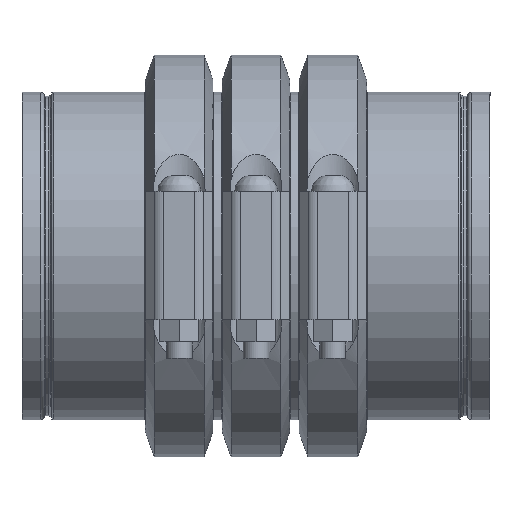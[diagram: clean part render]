
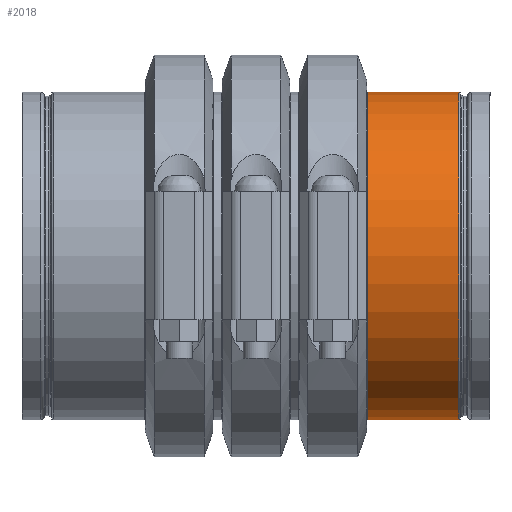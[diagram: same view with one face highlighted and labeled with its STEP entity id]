
A CAD part, top view. The second image highlights one B-rep face of the part: STEP entity #2018.
In plain terms, the highlighted cylindrical face has radius 161.925 mm (diameter 323.85 mm), a full revolution.
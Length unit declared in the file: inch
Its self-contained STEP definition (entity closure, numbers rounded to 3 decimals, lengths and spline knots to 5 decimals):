
#82=LINE('',#3299,#177);
#177=VECTOR('',#2644,6.375);
#272=CYLINDRICAL_SURFACE('',#2276,6.375);
#394=FACE_OUTER_BOUND('',#506,.T.);
#506=EDGE_LOOP('',(#1392,#1393,#1394,#1395,#1396,#1397,#1398,#1399));
#667=CIRCLE('',#2272,6.375);
#668=CIRCLE('',#2273,6.375);
#670=CIRCLE('',#2275,6.375);
#671=CIRCLE('',#2277,6.375);
#672=CIRCLE('',#2278,6.375);
#673=CIRCLE('',#2279,6.375);
#836=VERTEX_POINT('',#3286);
#837=VERTEX_POINT('',#3287);
#838=VERTEX_POINT('',#3289);
#839=VERTEX_POINT('',#3294);
#840=VERTEX_POINT('',#3295);
#841=VERTEX_POINT('',#3297);
#1055=EDGE_CURVE('',#836,#837,#667,.T.);
#1056=EDGE_CURVE('',#837,#838,#668,.T.);
#1058=EDGE_CURVE('',#838,#836,#670,.T.);
#1059=EDGE_CURVE('',#839,#840,#671,.T.);
#1060=EDGE_CURVE('',#841,#839,#672,.T.);
#1061=EDGE_CURVE('',#841,#837,#82,.T.);
#1062=EDGE_CURVE('',#840,#841,#673,.T.);
#1392=ORIENTED_EDGE('',*,*,#1059,.F.);
#1393=ORIENTED_EDGE('',*,*,#1060,.F.);
#1394=ORIENTED_EDGE('',*,*,#1061,.T.);
#1395=ORIENTED_EDGE('',*,*,#1055,.F.);
#1396=ORIENTED_EDGE('',*,*,#1058,.F.);
#1397=ORIENTED_EDGE('',*,*,#1056,.F.);
#1398=ORIENTED_EDGE('',*,*,#1061,.F.);
#1399=ORIENTED_EDGE('',*,*,#1062,.F.);
#2018=ADVANCED_FACE('',(#394),#272,.T.);
#2272=AXIS2_PLACEMENT_3D('',#3288,#2630,#2631);
#2273=AXIS2_PLACEMENT_3D('',#3290,#2632,#2633);
#2275=AXIS2_PLACEMENT_3D('',#3292,#2636,#2637);
#2276=AXIS2_PLACEMENT_3D('',#3293,#2638,#2639);
#2277=AXIS2_PLACEMENT_3D('',#3296,#2640,#2641);
#2278=AXIS2_PLACEMENT_3D('',#3298,#2642,#2643);
#2279=AXIS2_PLACEMENT_3D('',#3300,#2645,#2646);
#2630=DIRECTION('center_axis',(-1.,0.,0.));
#2631=DIRECTION('ref_axis',(0.,-1.,0.));
#2632=DIRECTION('center_axis',(-1.,0.,0.));
#2633=DIRECTION('ref_axis',(0.,-1.,0.));
#2636=DIRECTION('center_axis',(-1.,0.,0.));
#2637=DIRECTION('ref_axis',(0.,-1.,0.));
#2638=DIRECTION('center_axis',(1.,0.,0.));
#2639=DIRECTION('ref_axis',(0.,1.,0.));
#2640=DIRECTION('center_axis',(1.,0.,0.));
#2641=DIRECTION('ref_axis',(0.,-1.,0.));
#2642=DIRECTION('center_axis',(1.,0.,0.));
#2643=DIRECTION('ref_axis',(0.,-1.,0.));
#2644=DIRECTION('',(-1.,0.,0.));
#2645=DIRECTION('center_axis',(1.,0.,0.));
#2646=DIRECTION('ref_axis',(0.,-1.,0.));
#3286=CARTESIAN_POINT('',(1.249,6.375,0.));
#3287=CARTESIAN_POINT('',(1.249,-6.375,0.));
#3288=CARTESIAN_POINT('Origin',(1.249,0.,0.));
#3289=CARTESIAN_POINT('',(1.249,0.,6.375));
#3290=CARTESIAN_POINT('Origin',(1.249,0.,0.));
#3292=CARTESIAN_POINT('Origin',(1.249,0.,0.));
#3293=CARTESIAN_POINT('Origin',(3.01773,0.,0.));
#3294=CARTESIAN_POINT('',(4.78523,6.375,0.));
#3295=CARTESIAN_POINT('',(4.78523,0.,6.375));
#3296=CARTESIAN_POINT('Origin',(4.78523,0.,0.));
#3297=CARTESIAN_POINT('',(4.78523,-6.375,0.));
#3298=CARTESIAN_POINT('Origin',(4.78523,0.,0.));
#3299=CARTESIAN_POINT('',(3.01773,-6.375,0.));
#3300=CARTESIAN_POINT('Origin',(4.78523,0.,0.));
